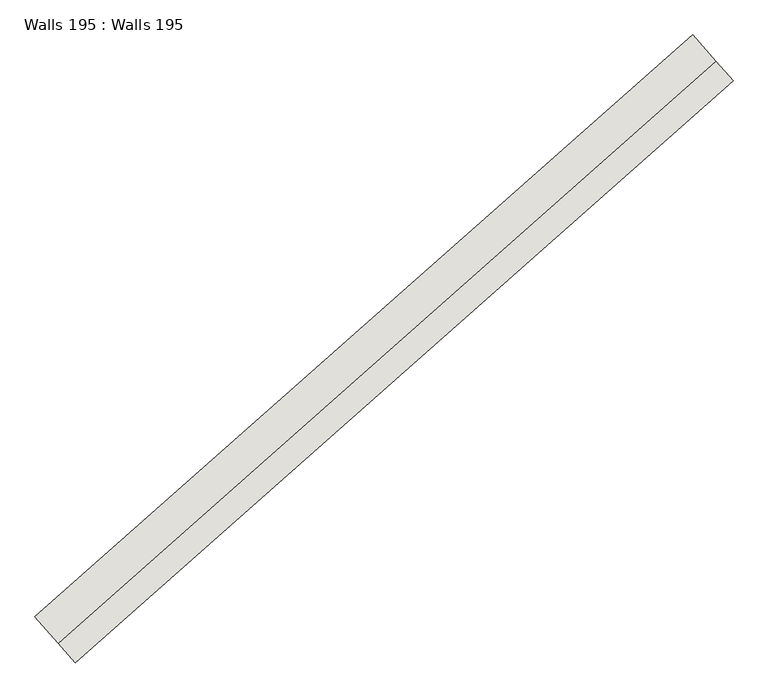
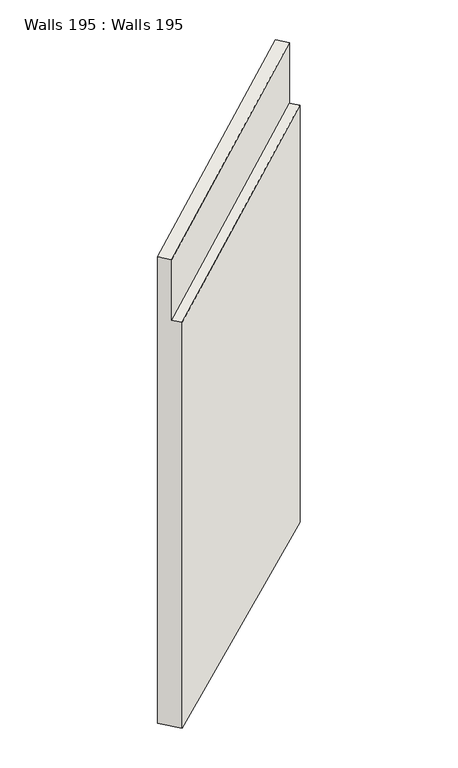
"""IFC4 building model written with IfcOpenShell, lengths in millimetres: wall geometry, Walls 195 : Walls 195."""

import ifcopenshell
import ifcopenshell.guid

model = None  # the IFC model being written
_history = None  # IfcOwnerHistory: only IFC2X3 demands one
_inside = {}  # id of a spatial element -> (the spatial element, [elements in it])
_under = {}  # id of a project, library or spatial element -> (it, [spatial elements below it])
_declared = {}  # id of a project -> (the project, [libraries it declares])
_typed = {}  # id of a type object -> (the type object, [elements of that type])
_made_of = {}  # id of a material, layer set ... -> (it, [elements and type objects made of it])


def new_model(schema):
    """Start an empty IFC model of exactly this schema.

    Asked for "IFC4X3", IfcOpenShell would pick the latest addendum, in which some entities
    have other attributes; the version numbers below select the first issue.
    IFC2X3 requires an IfcOwnerHistory on every rooted entity: one is made here for all.
    """
    global model, _history
    if schema == "IFC4X3":
        model = ifcopenshell.file(schema_version=(4, 3, 0, 0))
    else:
        model = ifcopenshell.file(schema=schema)
    _inside.clear()
    _under.clear()
    _declared.clear()
    _typed.clear()
    _made_of.clear()
    _history = None
    if model.schema == "IFC2X3":
        org = make("IfcOrganization", Name="unknown")
        user = make(
            "IfcPersonAndOrganization",
            ThePerson=make("IfcPerson", FamilyName="unknown"),
            TheOrganization=org,
        )
        app = make(
            "IfcApplication",
            ApplicationDeveloper=org,
            Version="unknown",
            ApplicationFullName="unknown",
            ApplicationIdentifier="unknown",
        )
        _history = make(
            "IfcOwnerHistory",
            OwningUser=user,
            OwningApplication=app,
            ChangeAction="ADDED",
            CreationDate=0,
        )
    return model


def make(cls, **values):
    """One entity of the class cls with the attributes given. An attribute that is None is left unset."""
    return model.create_entity(
        cls, **{name: value for name, value in values.items() if value is not None}
    )


def rooted(cls, **values):
    """An entity with a GlobalId (a new one), such as an element, a storey or a relation."""
    return make(cls, GlobalId=ifcopenshell.guid.new(), OwnerHistory=_history, **values)


def si_unit(unit_type, name, prefix=None):
    """IfcSIUnit, for example si_unit("LENGTHUNIT", "METRE", prefix="MILLI")."""
    return make("IfcSIUnit", UnitType=unit_type, Prefix=prefix, Name=name)


def assignment(units):
    """IfcUnitAssignment: the units of a project."""
    return None if units is None else make("IfcUnitAssignment", Units=units)


def point(xyz):
    """IfcCartesianPoint."""
    return None if xyz is None else make("IfcCartesianPoint", Coordinates=xyz)


def direction(xyz):
    """IfcDirection."""
    return None if xyz is None else make("IfcDirection", DirectionRatios=xyz)


def frame(location, z_axis=None, x_axis=None):
    """IfcAxis2Placement3D, a coordinate frame: its origin and axes. An axis left out is left unset."""
    return make(
        "IfcAxis2Placement3D",
        Location=point(location),
        Axis=direction(z_axis),
        RefDirection=direction(x_axis),
    )


def origin():
    """The frame at (0, 0, 0) with its axes left unset."""
    return frame((0.0, 0.0, 0.0))


def place(relative_to, where):
    """IfcLocalPlacement: puts the frame where relative to a parent placement (None: the world)."""
    return make(
        "IfcLocalPlacement", PlacementRelTo=relative_to, RelativePlacement=where
    )


def context(
    kind, dimensions, precision=None, world=None, true_north=None, identifier=None
):
    """IfcGeometricRepresentationContext, for example the 3D "Model" context."""
    return make(
        "IfcGeometricRepresentationContext",
        ContextIdentifier=identifier,
        ContextType=kind,
        CoordinateSpaceDimension=dimensions,
        Precision=precision,
        WorldCoordinateSystem=world,
        TrueNorth=true_north,
    )


def project(units=None, contexts=None):
    """IfcProject with its units and contexts."""
    return rooted(
        "IfcProject",
        Name="project",
        RepresentationContexts=contexts,
        UnitsInContext=assignment(units),
    )


def spatial(cls, under=None, at=None, **own):
    """A site, building, storey or space (cls), placed at a placement, below another one or the project."""
    s = rooted(cls, ObjectPlacement=at, **own)
    if under is not None:
        _under.setdefault(under.id(), (under, []))[1].append(s)
    return s


def faces_of(points, faces, orient=None, outer=None):
    """IfcFace entities. A face is a list of loops; a loop is a list of indices into points, from 0.

    orient and outer hold one flag for each loop. By default every Orientation is true, the
    first loop of a face is its IfcFaceOuterBound and the others are IfcFaceBound.
    """
    made = []
    for i, loops in enumerate(faces):
        bounds = []
        for j, loop in enumerate(loops):
            is_outer = j == 0 if outer is None else outer[i][j]
            bounds.append(
                make(
                    "IfcFaceOuterBound" if is_outer else "IfcFaceBound",
                    Bound=make("IfcPolyLoop", Polygon=[points[k] for k in loop]),
                    Orientation=True if orient is None else orient[i][j],
                )
            )
        made.append(make("IfcFace", Bounds=bounds))
    return made


def faceted_brep(points, faces, orient=None, outer=None, voids=None):
    """IfcFacetedBrep: a solid bounded by flat faces; with voids (closed shells), ...WithVoids."""
    shared = [point(p) for p in points]
    hull = make("IfcClosedShell", CfsFaces=faces_of(shared, faces, orient, outer))
    if voids is None:
        return make("IfcFacetedBrep", Outer=hull)
    return make(
        "IfcFacetedBrepWithVoids",
        Outer=hull,
        Voids=[
            make(cls, CfsFaces=faces_of(shared, fs, o, b)) for cls, fs, o, b in voids
        ],
    )


def shape(context_of_items, identifier, shape_type, items):
    """IfcShapeRepresentation: the items that make up one representation, for example the "Body"."""
    return make(
        "IfcShapeRepresentation",
        ContextOfItems=context_of_items,
        RepresentationIdentifier=identifier,
        RepresentationType=shape_type,
        Items=items,
    )


def source(mapping_origin, context_of_items, identifier, shape_type, items):
    """IfcRepresentationMap: a shape defined once, which mapped items show again and again."""
    return make(
        "IfcRepresentationMap",
        MappingOrigin=mapping_origin,
        MappedRepresentation=shape(context_of_items, identifier, shape_type, items),
    )


def transform(
    local_origin,
    x_axis=None,
    y_axis=None,
    z_axis=None,
    scale=None,
    scale2=None,
    scale3=None,
    uniform=True,
):
    """IfcCartesianTransformationOperator3D, or its non-uniform kind. x_axis, y_axis, z_axis: its Axis1, 2, 3."""
    if uniform:
        return make(
            "IfcCartesianTransformationOperator3D",
            Axis1=direction(x_axis),
            Axis2=direction(y_axis),
            LocalOrigin=point(local_origin),
            Scale=scale,
            Axis3=direction(z_axis),
        )
    return make(
        "IfcCartesianTransformationOperator3DnonUniform",
        Axis1=direction(x_axis),
        Axis2=direction(y_axis),
        LocalOrigin=point(local_origin),
        Scale=scale,
        Axis3=direction(z_axis),
        Scale2=scale2,
        Scale3=scale3,
    )


def mapped(mapping_source, mapping_target):
    """IfcMappedItem: shows the shape of a source again, moved by a transform."""
    return make(
        "IfcMappedItem", MappingSource=mapping_source, MappingTarget=mapping_target
    )


def made_of(thing, what):
    """Note that an element or type object is made of a material, layer set ...; save() writes the relation."""
    if what is not None:
        _made_of.setdefault(what.id(), (what, []))[1].append(thing)
    return thing


def element(
    cls,
    number,
    at=None,
    inside=None,
    cuts=None,
    type_object=None,
    material=None,
    context=None,
    identifier="Body",
    shape_type=None,
    held_by="IfcProductDefinitionShape",
    body=None,
    shapes=None,
    **own,
):
    """One element of the class cls, such as IfcWall. Its Tag is "e" and its number.

    at: its placement. inside: the storey or other place that contains it. cuts: it is an
    opening in that element (IfcRelVoidsElement). A single representation is given by context,
    identifier, shape_type and body (its items); several are given by shapes. held_by: the class
    of the entity that holds the representations. save() writes the other relations.
    """
    e = rooted(cls, Tag="e%d" % number, ObjectPlacement=at, **own)
    if body is not None:
        shapes = [shape(context, identifier, shape_type, body)]
    if shapes is not None:
        e.Representation = make(held_by, Representations=shapes)
    if inside is not None:
        _inside.setdefault(inside.id(), (inside, []))[1].append(e)
    if cuts is not None:
        rooted(
            "IfcRelVoidsElement", RelatingBuildingElement=cuts, RelatedOpeningElement=e
        )
    if type_object is not None:
        _typed.setdefault(type_object.id(), (type_object, []))[1].append(e)
    return made_of(e, material)


def aggregate(whole, parts):
    """IfcRelAggregates: a whole, such as a stair, and the parts it consists of."""
    return rooted("IfcRelAggregates", RelatingObject=whole, RelatedObjects=parts)


def save(model, path):
    """Write the relations noted so far, then the file.

    IfcRelAggregates (storeys below a building ...), IfcRelContainedInSpatialStructure (elements
    in a storey), IfcRelDefinesByType, IfcRelAssociatesMaterial and IfcRelDeclares: one each for
    every whole, place, type object, material and project.
    """
    for whole, parts in _under.values():
        aggregate(whole, parts)
    for where, things in _inside.values():
        rooted(
            "IfcRelContainedInSpatialStructure",
            RelatedElements=things,
            RelatingStructure=where,
        )
    for kind, things in _typed.values():
        rooted("IfcRelDefinesByType", RelatedObjects=things, RelatingType=kind)
    for what, things in _made_of.values():
        rooted("IfcRelAssociatesMaterial", RelatedObjects=things, RelatingMaterial=what)
    for by, libraries in _declared.values():
        rooted("IfcRelDeclares", RelatingContext=by, RelatedDefinitions=libraries)
    model.write(path)


def walls_195_walls_195_550ba75a(model_context):
    return source(origin(), model_context, "Body", "Brep", [
        faceted_brep([(360816.7757464, 230666.3281693, 644170.0), (360816.7757464, 230666.3281693, 650880.0), (360717.3533071, 230778.6453525, 650880.0), (360717.3533071, 230778.6453525, 651880.0), (360584.7900547, 230928.4015969, 651880.0), (360584.7900547, 230928.4015969, 644170.0), (364578.6428229, 233996.0081178, 644240.0), (364346.6571312, 234258.0815454, 644240.0), (364346.6571312, 234258.0815454, 652130.0), (364479.2203836, 234108.3253011, 652130.0), (364479.2203836, 234108.3253011, 651130.0), (364578.6428229, 233996.0081178, 651130.0)], [[[0, 1, 2, 3, 4, 5]], [[6, 7, 8, 9, 10, 11]], [[6, 11, 1, 0]], [[11, 10, 2, 1]], [[10, 9, 3, 2]], [[9, 8, 4, 3]], [[8, 7, 5, 4]], [[7, 6, 0, 5]]]),
    ])


if __name__ == "__main__":
    model = new_model("IFC4")
    model_context = context("Model", 3, world=origin())
    ifc_project = project(units=[si_unit("LENGTHUNIT", "METRE", prefix="MILLI")], contexts=[model_context])
    site = spatial("IfcSite", under=ifc_project)
    building = spatial("IfcBuilding", under=site)
    placement = place(None, origin())
    walls_195_walls_195_shape = walls_195_walls_195_550ba75a(model_context)
    element("IfcWall", 1, ObjectType="Walls 195 : Walls 195", at=placement, inside=building, context=model_context, shape_type="MappedRepresentation", body=[
        mapped(walls_195_walls_195_shape, transform((0.0, 0.0, 0.0), x_axis=(1.0, 0.0, 0.0), y_axis=(0.0, 1.0, 0.0), z_axis=(0.0, 0.0, 1.0))),
    ])
    save(model, "model.ifc")
